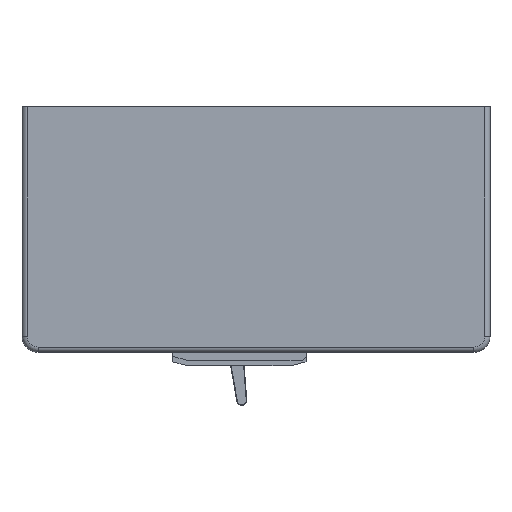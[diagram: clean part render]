
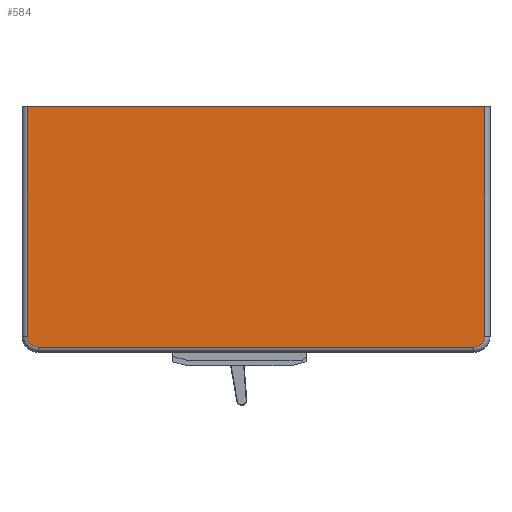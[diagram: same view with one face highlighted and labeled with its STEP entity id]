
A CAD part, front view. The second image highlights one B-rep face of the part: STEP entity #584.
In plain terms, the highlighted planar face has unit normal (0, -1, 0).
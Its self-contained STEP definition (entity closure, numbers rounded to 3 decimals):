
#584=ADVANCED_FACE('',(#2203),#2205,.F.);
#2203=FACE_BOUND('',#2204,.T.);
#2204=EDGE_LOOP('',(#3487,#3488,#3489,#3490,#3491,#3492));
#2205=PLANE('',#2206);
#2206=AXIS2_PLACEMENT_3D('',#2207,#2208,#2209);
#2207=CARTESIAN_POINT('',(0.,-112.,0.));
#2208=DIRECTION('',(-0.,1.,0.));
#2209=DIRECTION('',(1.,0.,0.));
#3487=ORIENTED_EDGE('',*,*,#4351,.F.);
#3488=ORIENTED_EDGE('',*,*,#4192,.F.);
#3489=ORIENTED_EDGE('',*,*,#4350,.F.);
#3490=ORIENTED_EDGE('',*,*,#4352,.F.);
#3491=ORIENTED_EDGE('',*,*,#4256,.F.);
#3492=ORIENTED_EDGE('',*,*,#4353,.F.);
#4192=EDGE_CURVE('',#4737,#4739,#4740,.T.);
#4256=EDGE_CURVE('',#4850,#4852,#4853,.T.);
#4350=EDGE_CURVE('',#5002,#4737,#5004,.T.);
#4351=EDGE_CURVE('',#4739,#5005,#5006,.T.);
#4352=EDGE_CURVE('',#4852,#5002,#5007,.F.);
#4353=EDGE_CURVE('',#5005,#4850,#5008,.F.);
#4737=VERTEX_POINT('',#5692);
#4739=VERTEX_POINT('',#5697);
#4740=LINE('',#5698,#5699);
#4850=VERTEX_POINT('',#5948);
#4852=VERTEX_POINT('',#5953);
#4853=LINE('',#5954,#5955);
#5002=VERTEX_POINT('',#6305);
#5004=LINE('',#6310,#6311);
#5005=VERTEX_POINT('',#6313);
#5006=LINE('',#6314,#6315);
#5007=CIRCLE('',#6317,4.);
#5008=CIRCLE('',#6321,4.);
#5692=CARTESIAN_POINT('',(2.,-112.,0.));
#5697=CARTESIAN_POINT('',(173.3,-112.,0.));
#5698=CARTESIAN_POINT('',(2.,-112.,0.));
#5699=VECTOR('',#5700,1.);
#5700=DIRECTION('',(1.,0.,0.));
#5948=CARTESIAN_POINT('',(169.3,-112.,-90.));
#5953=CARTESIAN_POINT('',(6.,-112.,-90.));
#5954=CARTESIAN_POINT('',(169.3,-112.,-90.));
#5955=VECTOR('',#5956,1.);
#5956=DIRECTION('',(-1.,0.,0.));
#6305=CARTESIAN_POINT('',(2.,-112.,-86.));
#6310=CARTESIAN_POINT('',(2.,-112.,-86.));
#6311=VECTOR('',#6312,1.);
#6312=DIRECTION('',(0.,0.,1.));
#6313=CARTESIAN_POINT('',(173.3,-112.,-86.));
#6314=CARTESIAN_POINT('',(173.3,-112.,0.));
#6315=VECTOR('',#6316,1.);
#6316=DIRECTION('',(0.,0.,-1.));
#6317=AXIS2_PLACEMENT_3D('',#6318,#6319,#6320);
#6318=CARTESIAN_POINT('',(6.,-112.,-86.));
#6319=DIRECTION('',(0.,-1.,-0.));
#6320=DIRECTION('',(-1.,0.,0.));
#6321=AXIS2_PLACEMENT_3D('',#6322,#6323,#6324);
#6322=CARTESIAN_POINT('',(169.3,-112.,-86.));
#6323=DIRECTION('',(0.,-1.,0.));
#6324=DIRECTION('',(0.,0.,-1.));
